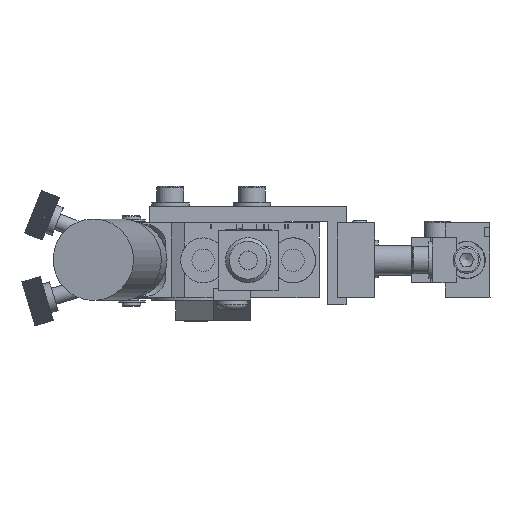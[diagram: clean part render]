
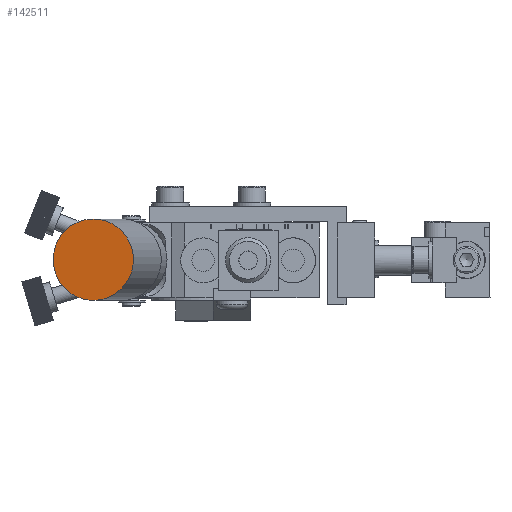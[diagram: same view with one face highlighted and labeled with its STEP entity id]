
A CAD part, front view. The second image highlights one B-rep face of the part: STEP entity #142511.
In plain terms, the highlighted planar face has unit normal (-0.174, -0.985, 0).
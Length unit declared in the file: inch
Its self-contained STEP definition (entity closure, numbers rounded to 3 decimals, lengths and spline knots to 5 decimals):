
#142495=CARTESIAN_POINT('',(-0.8449,-6.73627,-0.23053));
#142496=DIRECTION('',(-0.174,-0.985,0.));
#142497=DIRECTION('',(0.272,-0.048,0.961));
#142498=AXIS2_PLACEMENT_3D('',#142495,#142496,#142497);
#142499=PLANE('',#142498);
#142500=CARTESIAN_POINT('',(-0.93754,-6.71993,-0.55726));
#142501=VERTEX_POINT('',#142500);
#142502=CARTESIAN_POINT('',(-0.8449,-6.73627,-0.23053));
#142503=DIRECTION('',(-0.174,-0.985,0.));
#142504=DIRECTION('',(0.272,-0.048,0.961));
#142505=AXIS2_PLACEMENT_3D('',#142502,#142503,#142504);
#142506=CIRCLE('',#142505,0.34);
#142507=EDGE_CURVE('',#142501,#142501,#142506,.T.);
#142508=ORIENTED_EDGE('',*,*,#142507,.T.);
#142509=EDGE_LOOP('',(#142508));
#142510=FACE_OUTER_BOUND('',#142509,.T.);
#142511=ADVANCED_FACE('',(#142510),#142499,.T.);
